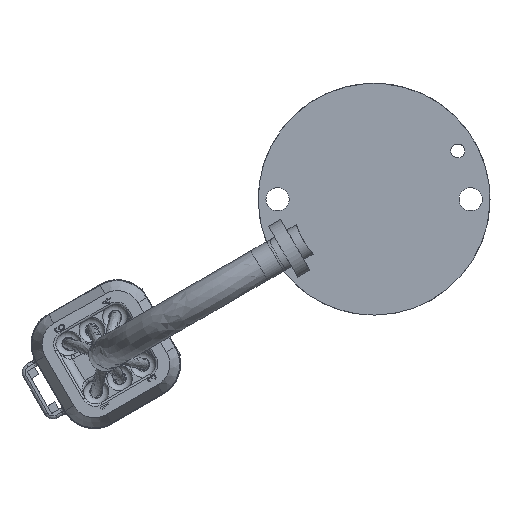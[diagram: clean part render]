
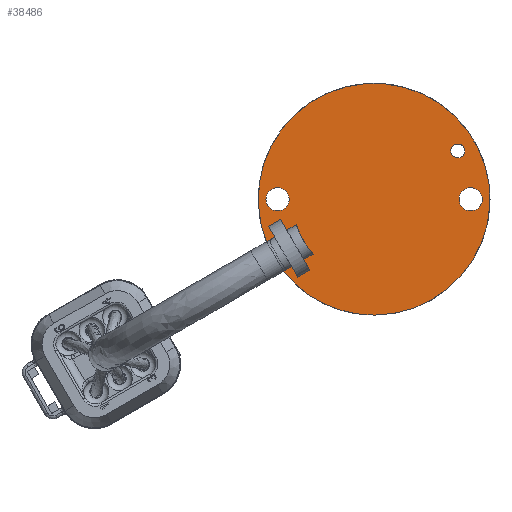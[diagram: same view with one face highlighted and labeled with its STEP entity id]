
A CAD part, left-side view. The second image highlights one B-rep face of the part: STEP entity #38486.
In plain terms, the highlighted planar face has unit normal (-1, 0, 0).
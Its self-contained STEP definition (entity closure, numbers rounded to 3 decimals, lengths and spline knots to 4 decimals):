
#912=FACE_BOUND('',#12017,.T.);
#913=FACE_BOUND('',#12018,.T.);
#914=FACE_BOUND('',#12019,.T.);
#1135=PLANE('',#40786);
#2184=LINE('',#49811,#5886);
#2186=LINE('',#49817,#5888);
#2188=LINE('',#49825,#5890);
#2191=LINE('',#49834,#5893);
#2194=LINE('',#49843,#5896);
#2196=LINE('',#49846,#5898);
#2199=LINE('',#49850,#5901);
#2203=LINE('',#49858,#5905);
#2205=LINE('',#49863,#5907);
#2209=LINE('',#49870,#5911);
#5886=VECTOR('',#42435,0.3937);
#5888=VECTOR('',#42441,0.3937);
#5890=VECTOR('',#42447,0.3937);
#5893=VECTOR('',#42454,0.3937);
#5896=VECTOR('',#42461,0.3937);
#5898=VECTOR('',#42465,0.3937);
#5901=VECTOR('',#42470,0.3937);
#5905=VECTOR('',#42476,0.3937);
#5907=VECTOR('',#42480,0.3937);
#5911=VECTOR('',#42486,0.3937);
#9829=FACE_OUTER_BOUND('',#12016,.T.);
#12016=EDGE_LOOP('',(#27006,#27007,#27008,#27009,#27010,#27011,#27012,#27013,
#27014,#27015,#27016,#27017,#27018));
#12017=EDGE_LOOP('',(#27019));
#12018=EDGE_LOOP('',(#27020));
#12019=EDGE_LOOP('',(#27021));
#16028=CIRCLE('',#40590,0.75);
#16030=CIRCLE('',#40592,0.75);
#16035=CIRCLE('',#40608,0.075);
#16039=CIRCLE('',#40613,0.075);
#16051=CIRCLE('',#40629,0.0445);
#16065=CIRCLE('',#40653,0.53);
#16512=VERTEX_POINT('',#49789);
#16513=VERTEX_POINT('',#49791);
#16515=VERTEX_POINT('',#49796);
#16519=VERTEX_POINT('',#49809);
#16521=VERTEX_POINT('',#49815);
#16524=VERTEX_POINT('',#49822);
#16525=VERTEX_POINT('',#49824);
#16528=VERTEX_POINT('',#49831);
#16529=VERTEX_POINT('',#49833);
#16532=VERTEX_POINT('',#49840);
#16533=VERTEX_POINT('',#49842);
#16536=VERTEX_POINT('',#49856);
#16538=VERTEX_POINT('',#49862);
#16542=VERTEX_POINT('',#49882);
#16548=VERTEX_POINT('',#49896);
#16560=VERTEX_POINT('',#49930);
#20452=EDGE_CURVE('',#16513,#16512,#16028,.T.);
#20455=EDGE_CURVE('',#16515,#16513,#16030,.T.);
#20461=EDGE_CURVE('',#16512,#16519,#2184,.T.);
#20464=EDGE_CURVE('',#16519,#16521,#2186,.T.);
#20467=EDGE_CURVE('',#16525,#16524,#2188,.T.);
#20471=EDGE_CURVE('',#16529,#16528,#2191,.T.);
#20475=EDGE_CURVE('',#16533,#16532,#2194,.T.);
#20477=EDGE_CURVE('',#16521,#16529,#2196,.T.);
#20480=EDGE_CURVE('',#16532,#16525,#2199,.T.);
#20484=EDGE_CURVE('',#16528,#16536,#2203,.T.);
#20486=EDGE_CURVE('',#16538,#16533,#2205,.T.);
#20490=EDGE_CURVE('',#16524,#16515,#2209,.T.);
#20493=EDGE_CURVE('',#16542,#16542,#16035,.T.);
#20500=EDGE_CURVE('',#16548,#16548,#16039,.T.);
#20518=EDGE_CURVE('',#16560,#16560,#16051,.T.);
#20537=EDGE_CURVE('',#16538,#16536,#16065,.T.);
#27006=ORIENTED_EDGE('',*,*,#20537,.F.);
#27007=ORIENTED_EDGE('',*,*,#20486,.T.);
#27008=ORIENTED_EDGE('',*,*,#20475,.T.);
#27009=ORIENTED_EDGE('',*,*,#20480,.T.);
#27010=ORIENTED_EDGE('',*,*,#20467,.T.);
#27011=ORIENTED_EDGE('',*,*,#20490,.T.);
#27012=ORIENTED_EDGE('',*,*,#20455,.T.);
#27013=ORIENTED_EDGE('',*,*,#20452,.T.);
#27014=ORIENTED_EDGE('',*,*,#20461,.T.);
#27015=ORIENTED_EDGE('',*,*,#20464,.T.);
#27016=ORIENTED_EDGE('',*,*,#20477,.T.);
#27017=ORIENTED_EDGE('',*,*,#20471,.T.);
#27018=ORIENTED_EDGE('',*,*,#20484,.T.);
#27019=ORIENTED_EDGE('',*,*,#20493,.T.);
#27020=ORIENTED_EDGE('',*,*,#20500,.T.);
#27021=ORIENTED_EDGE('',*,*,#20518,.T.);
#38486=ADVANCED_FACE('',(#9829,#912,#913,#914),#1135,.T.);
#40590=AXIS2_PLACEMENT_3D('',#49792,#42422,#42423);
#40592=AXIS2_PLACEMENT_3D('',#49797,#42427,#42428);
#40608=AXIS2_PLACEMENT_3D('',#49883,#42490,#42491);
#40613=AXIS2_PLACEMENT_3D('',#49897,#42503,#42504);
#40629=AXIS2_PLACEMENT_3D('',#49931,#42541,#42542);
#40653=AXIS2_PLACEMENT_3D('',#49970,#42594,#42595);
#40786=AXIS2_PLACEMENT_3D('',#51220,#43007,#43008);
#42422=DIRECTION('center_axis',(-1.,0.,0.));
#42423=DIRECTION('ref_axis',(0.,0.,1.));
#42427=DIRECTION('center_axis',(-1.,0.,0.));
#42428=DIRECTION('ref_axis',(0.,0.,1.));
#42435=DIRECTION('',(0.,-0.866,0.5));
#42441=DIRECTION('',(0.,0.5,0.866));
#42447=DIRECTION('',(0.,0.5,0.866));
#42454=DIRECTION('',(0.,-0.5,-0.866));
#42461=DIRECTION('',(0.,-0.5,-0.866));
#42465=DIRECTION('',(0.,-0.866,0.5));
#42470=DIRECTION('',(0.,0.866,-0.5));
#42476=DIRECTION('',(0.,-0.866,0.5));
#42480=DIRECTION('',(0.,0.866,-0.5));
#42486=DIRECTION('',(0.,0.866,-0.5));
#42490=DIRECTION('center_axis',(1.,0.,0.));
#42491=DIRECTION('ref_axis',(0.,-1.,0.));
#42503=DIRECTION('center_axis',(1.,0.,0.));
#42504=DIRECTION('ref_axis',(0.,-1.,0.));
#42541=DIRECTION('center_axis',(1.,0.,0.));
#42542=DIRECTION('ref_axis',(0.,-1.,0.));
#42594=DIRECTION('center_axis',(1.,0.,0.));
#42595=DIRECTION('ref_axis',(0.,0.,1.));
#43007=DIRECTION('center_axis',(-1.,0.,0.));
#43008=DIRECTION('ref_axis',(0.,0.,1.));
#49789=CARTESIAN_POINT('',(0.,0.6975,-0.2757));
#49791=CARTESIAN_POINT('',(0.,0.,
-0.75));
#49792=CARTESIAN_POINT('Origin',(0.,0.,0.));
#49796=CARTESIAN_POINT('',(0.,0.5875,-0.4662));
#49797=CARTESIAN_POINT('Origin',(0.,0.,0.));
#49809=CARTESIAN_POINT('',(0.,0.6439,-0.2447));
#49811=CARTESIAN_POINT('',(0.,-0.0597,0.1615));
#49815=CARTESIAN_POINT('',(0.,0.6839,-0.1755));
#49817=CARTESIAN_POINT('',(0.,0.7036,-0.1413));
#49822=CARTESIAN_POINT('',(0.,0.5339,-0.4353));
#49824=CARTESIAN_POINT('',(0.,0.4939,-0.5045));
#49825=CARTESIAN_POINT('',(0.,0.7036,-0.1413));
#49831=CARTESIAN_POINT('',(0.,0.566,-0.1997));
#49833=CARTESIAN_POINT('',(0.,0.606,-0.1305));
#49834=CARTESIAN_POINT('',(0.,0.6257,-0.0963));
#49840=CARTESIAN_POINT('',(0.,0.416,-0.4595));
#49842=CARTESIAN_POINT('',(0.,0.456,-0.3903));
#49843=CARTESIAN_POINT('',(0.,0.6257,-0.0963));
#49846=CARTESIAN_POINT('',(0.,0.2357,0.0833));
#49850=CARTESIAN_POINT('',(0.,0.0457,-0.2458));
#49856=CARTESIAN_POINT('',(0.,0.504,-0.164));
#49858=CARTESIAN_POINT('',(0.,-0.0597,0.1615));
#49862=CARTESIAN_POINT('',(0.,0.394,-0.3545));
#49863=CARTESIAN_POINT('',(0.,-0.1697,-0.029));
#49870=CARTESIAN_POINT('',(0.,-0.1697,-0.029));
#49882=CARTESIAN_POINT('',(0.,-0.55,0.));
#49883=CARTESIAN_POINT('Origin',(0.,-0.625,0.));
#49896=CARTESIAN_POINT('',(0.,0.7,0.));
#49897=CARTESIAN_POINT('Origin',(0.,0.625,0.));
#49930=CARTESIAN_POINT('',(0.,-0.4968,0.3125));
#49931=CARTESIAN_POINT('Origin',(0.,-0.5413,0.3125));
#49970=CARTESIAN_POINT('Origin',(0.,0.,0.));
#51220=CARTESIAN_POINT('Origin',(0.,0.,0.));
